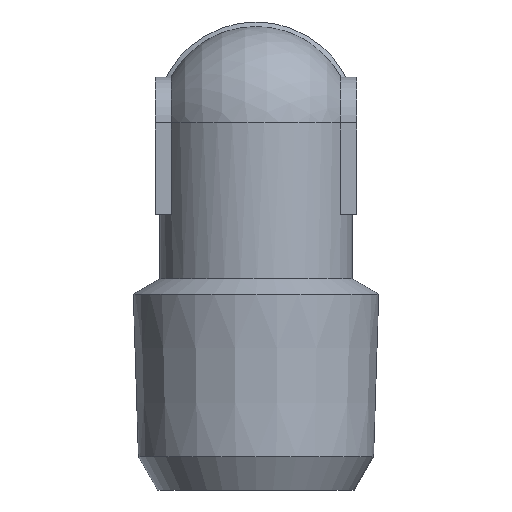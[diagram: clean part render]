
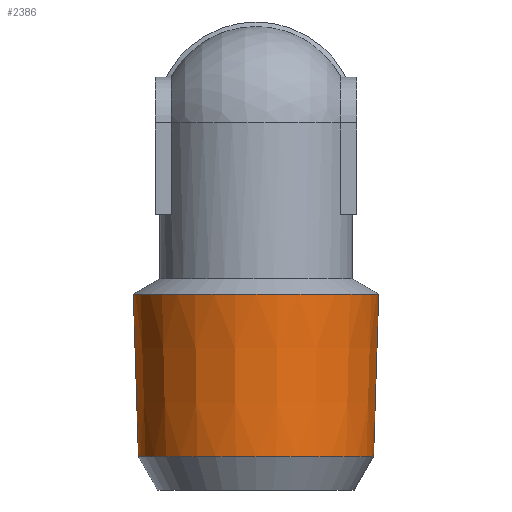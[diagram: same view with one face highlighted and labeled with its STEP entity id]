
A CAD part, left-side view. The second image highlights one B-rep face of the part: STEP entity #2386.
In plain terms, the highlighted conical face has half-angle 1.79 degrees and reference radius 6.694 mm.
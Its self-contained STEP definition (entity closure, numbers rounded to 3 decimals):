
#1061=ORIENTED_EDGE('',*,*,#1322,.F.);
#1062=ORIENTED_EDGE('',*,*,#1323,.F.);
#1210=CIRCLE('',#2281,6.684);
#1211=CIRCLE('',#2282,6.407);
#1256=VERTEX_POINT('',#2093);
#1257=VERTEX_POINT('',#2095);
#1322=EDGE_CURVE('',#1256,#1256,#1210,.T.);
#1323=EDGE_CURVE('',#1257,#1257,#1211,.T.);
#1404=EDGE_LOOP('',(#1061));
#1405=EDGE_LOOP('',(#1062));
#1487=FACE_BOUND('',#1404,.T.);
#1488=FACE_BOUND('',#1405,.T.);
#1592=DIRECTION('',(0.,1.,0.));
#1593=DIRECTION('',(0.,0.,1.));
#1594=DIRECTION('',(0.,1.,0.));
#1595=DIRECTION('',(0.,0.,6.684));
#1596=DIRECTION('',(0.,-1.,0.));
#1597=DIRECTION('',(0.,0.,6.407));
#2092=CARTESIAN_POINT('',(0.,11.,0.));
#2093=CARTESIAN_POINT('',(0.,10.672,6.684));
#2094=CARTESIAN_POINT('',(0.,10.672,0.));
#2095=CARTESIAN_POINT('',(0.,1.8,6.407));
#2096=CARTESIAN_POINT('',(0.,1.8,0.));
#2280=AXIS2_PLACEMENT_3D('',#2092,#1592,#1593);
#2281=AXIS2_PLACEMENT_3D('',#2094,#1594,#1595);
#2282=AXIS2_PLACEMENT_3D('',#2096,#1596,#1597);
#2368=CONICAL_SURFACE('',#2280,6.694,1.79);
#2386=ADVANCED_FACE('',(#1487,#1488),#2368,.T.);
